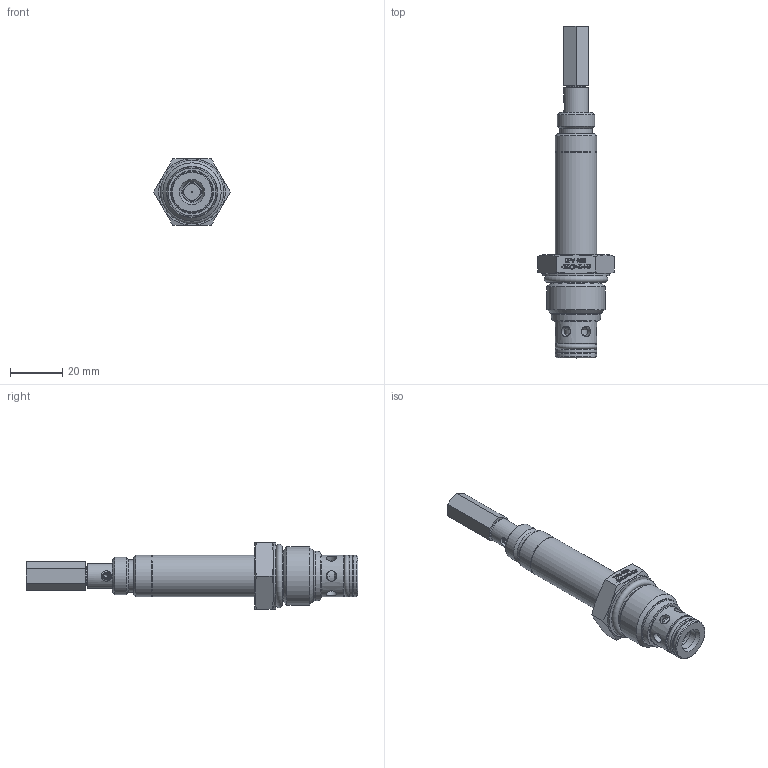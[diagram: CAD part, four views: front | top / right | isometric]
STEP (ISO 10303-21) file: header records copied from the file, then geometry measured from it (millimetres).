
FILE_DESCRIPTION(/* description */ (''),/* implementation_level */ '2;1');
FILE_NAME(/* name */ 'C:\Users\mcooper\OneDrive - Deltrol Corporation\Desktop\DFP_Docs\Deltrol\Catalog Pages - Proportional Valve Line\Website\DPV-100-2NCP\DPV-100-2NCP.stp',/* time_stamp */ '2026-01-29T08:55:10-05:00',/* author */ ('mcooper'),/* organization */ (''),/* preprocessor_version */ 'ST-DEVELOPER v18',/* originating_system */ 'Autodesk Inventor 2020',/* authorisation */ '');
FILE_SCHEMA (('AUTOMOTIVE_DESIGN { 1 0 10303 214 3 1 1 }','AUTOMOTIVE_DESIGN { 1 0 10303 214 1 1 1 1 }'));
Length unit declared in the file: inch
Products named in the file (1): 10326-51_Shrinkwrap_1
Bounding box: 29.33 x 126.58 x 25.4 mm (x, y, z)
Volume: 18953.7 mm3; surface area: 19162.4 mm2
Topology: 12 solids, 12 shells, 525 faces, 1422 edges, 977 vertices
Faces by surface type: plane 278, cylinder 81, bspline 76, cone 73, torus 16, sphere 1
Full cylindrical faces by diameter (mm): 0.254 x1, 0.508 x1, 1.524 x2, 1.727 x2, 2.235 x1, 2.845 x1, 3.175 x1, 3.505 x1, 3.607 x1, 3.962 x7, 4.242 x1, 5.016 x1, 6.337 x1, 6.35 x2, 6.604 x2, 6.934 x1, 7.175 x1, 7.341 x1, 7.436 x1, 7.474 x1, 7.569 x1, 7.925 x1, 7.938 x1, 8.636 x1, 9.461 x1, 9.804 x1, 9.906 x1, 10.331 x4, 11.093 x5, 11.119 x2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
Entity records: 18348 total; most frequent: CARTESIAN_POINT 4680, ORIENTED_EDGE 2834, DIRECTION 2490, EDGE_CURVE 1417, VERTEX_POINT 977, AXIS2_PLACEMENT_3D 862, LINE 766, VECTOR 766
